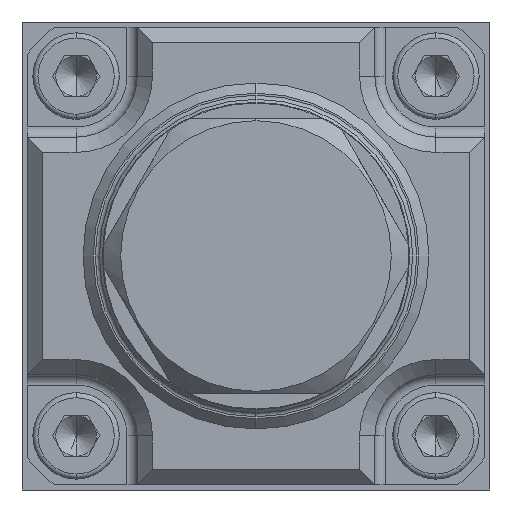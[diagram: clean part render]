
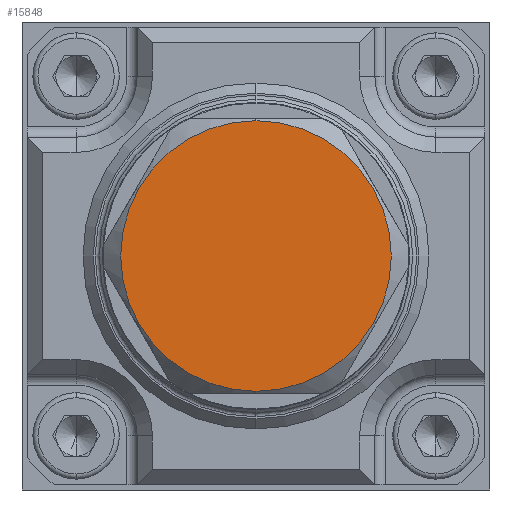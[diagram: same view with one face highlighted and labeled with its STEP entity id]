
A CAD part, left-side view. The second image highlights one B-rep face of the part: STEP entity #15848.
In plain terms, the highlighted planar face has unit normal (-1, 0, 0).
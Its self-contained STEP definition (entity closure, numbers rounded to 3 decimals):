
#1051 = DIRECTION ( 'NONE',  ( -1., 0., 0. ) ) ;
#2533 = ORIENTED_EDGE ( 'NONE', *, *, #18507, .F. ) ;
#5683 = AXIS2_PLACEMENT_3D ( 'NONE', #8270, #19557, #31045 ) ;
#6786 = VERTEX_POINT ( 'NONE', #16483 ) ;
#8270 = CARTESIAN_POINT ( 'NONE',  ( -100.8, 0., 0. ) ) ;
#8422 = ORIENTED_EDGE ( 'NONE', *, *, #36067, .F. ) ;
#8542 = PLANE ( 'NONE',  #33761 ) ;
#9041 = CIRCLE ( 'NONE', #26345, 13.3 ) ;
#9049 = CARTESIAN_POINT ( 'NONE',  ( -100.8, 13.3, 0. ) ) ;
#10446 = CIRCLE ( 'NONE', #5683, 13.3 ) ;
#15848 = ADVANCED_FACE ( 'NONE', ( #31368 ), #8542, .T. ) ;
#16483 = CARTESIAN_POINT ( 'NONE',  ( -100.8, 0., 13.3 ) ) ;
#18507 = EDGE_CURVE ( 'NONE', #23165, #6786, #9041, .T. ) ;
#18594 = CARTESIAN_POINT ( 'NONE',  ( -100.8, 0., -13.3 ) ) ;
#19538 = EDGE_LOOP ( 'NONE', ( #2533, #8422 ) ) ;
#19557 = DIRECTION ( 'NONE',  ( 1., 0., 0. ) ) ;
#21925 = DIRECTION ( 'NONE',  ( 0., 0., -1. ) ) ;
#23165 = VERTEX_POINT ( 'NONE', #18594 ) ;
#25320 = CARTESIAN_POINT ( 'NONE',  ( -100.8, 0., 0. ) ) ;
#26345 = AXIS2_PLACEMENT_3D ( 'NONE', #25320, #30832, #21925 ) ;
#30832 = DIRECTION ( 'NONE',  ( 1., 0., 0. ) ) ;
#31045 = DIRECTION ( 'NONE',  ( 0., 0., -1. ) ) ;
#31368 = FACE_OUTER_BOUND ( 'NONE', #19538, .T. ) ;
#32338 = DIRECTION ( 'NONE',  ( 0., 0., 1. ) ) ;
#33761 = AXIS2_PLACEMENT_3D ( 'NONE', #9049, #1051, #32338 ) ;
#36067 = EDGE_CURVE ( 'NONE', #6786, #23165, #10446, .T. ) ;
